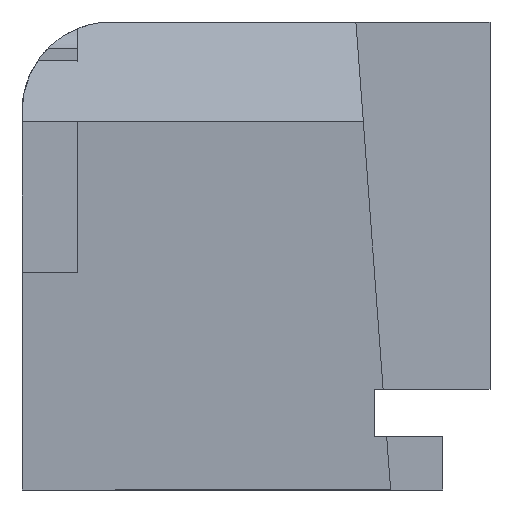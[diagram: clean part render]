
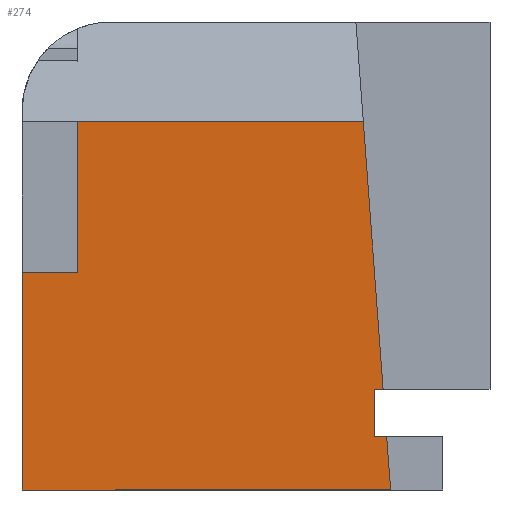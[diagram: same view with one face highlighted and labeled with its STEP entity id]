
A CAD part, left-side view. The second image highlights one B-rep face of the part: STEP entity #274.
In plain terms, the highlighted planar face has unit normal (-0.997, 0.077, 0).
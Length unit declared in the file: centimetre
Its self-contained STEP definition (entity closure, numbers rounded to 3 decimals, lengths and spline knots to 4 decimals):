
#10 = VECTOR ( 'NONE', #1066, 100. ) ;
#25 = CARTESIAN_POINT ( 'NONE',  ( 206.9924, 228.3187, 214.9187 ) ) ;
#38 = CARTESIAN_POINT ( 'NONE',  ( 266.8858, 1000., 787.0998 ) ) ;
#45 = EDGE_CURVE ( 'NONE', #109, #548, #122, .T. ) ;
#77 = LINE ( 'NONE', #866, #918 ) ;
#109 = VERTEX_POINT ( 'NONE', #25 ) ;
#122 = LINE ( 'NONE', #553, #714 ) ;
#141 = VERTEX_POINT ( 'NONE', #218 ) ;
#149 = FACE_OUTER_BOUND ( 'NONE', #820, .T. ) ;
#159 = CARTESIAN_POINT ( 'NONE',  ( 257.65, 881.0047, 787.0998 ) ) ;
#184 = LINE ( 'NONE', #449, #10 ) ;
#192 = EDGE_CURVE ( 'NONE', #310, #109, #778, .T. ) ;
#215 = VECTOR ( 'NONE', #799, 100. ) ;
#218 = CARTESIAN_POINT ( 'NONE',  ( 266.8858, 1000., 464.843 ) ) ;
#231 = VERTEX_POINT ( 'NONE', #332 ) ;
#232 = PLANE ( 'NONE',  #291 ) ;
#237 = VECTOR ( 'NONE', #776, 100. ) ;
#255 = CARTESIAN_POINT ( 'NONE',  ( 266.8858, 1000., 787.0998 ) ) ;
#274 = ADVANCED_FACE ( 'NONE', ( #149 ), #232, .F. ) ;
#279 = VERTEX_POINT ( 'NONE', #1025 ) ;
#291 = AXIS2_PLACEMENT_3D ( 'NONE', #38, #678, #670 ) ;
#310 = VERTEX_POINT ( 'NONE', #860 ) ;
#329 = CARTESIAN_POINT ( 'NONE',  ( 208.4886, 247.5966, 787.0998 ) ) ;
#332 = CARTESIAN_POINT ( 'NONE',  ( 257.65, 881.0047, 464.843 ) ) ;
#334 = ORIENTED_EDGE ( 'NONE', *, *, #500, .T. ) ;
#355 = EDGE_CURVE ( 'NONE', #141, #231, #1105, .T. ) ;
#374 = CARTESIAN_POINT ( 'NONE',  ( 210.2833, 270.7191, 787.0998 ) ) ;
#405 = VECTOR ( 'NONE', #1064, 100. ) ;
#449 = CARTESIAN_POINT ( 'NONE',  ( 210.5942, 274.7258, 841.1687 ) ) ;
#450 = VERTEX_POINT ( 'NONE', #159 ) ;
#453 = LINE ( 'NONE', #635, #405 ) ;
#461 = ORIENTED_EDGE ( 'NONE', *, *, #533, .F. ) ;
#467 = CARTESIAN_POINT ( 'NONE',  ( 266.8858, 1000., 0. ) ) ;
#482 = ORIENTED_EDGE ( 'NONE', *, *, #45, .T. ) ;
#495 = DIRECTION ( 'NONE',  ( 0.006, 0.074, 0.997 ) ) ;
#499 = ORIENTED_EDGE ( 'NONE', *, *, #1014, .T. ) ;
#500 = EDGE_CURVE ( 'NONE', #826, #310, #611, .T. ) ;
#524 = VECTOR ( 'NONE', #858, 100. ) ;
#533 = EDGE_CURVE ( 'NONE', #450, #548, #615, .T. ) ;
#536 = LINE ( 'NONE', #1072, #1097 ) ;
#548 = VERTEX_POINT ( 'NONE', #374 ) ;
#553 = CARTESIAN_POINT ( 'NONE',  ( 210.5942, 274.7258, 841.1687 ) ) ;
#569 = CARTESIAN_POINT ( 'NONE',  ( 208.4886, 247.5966, 114.3688 ) ) ;
#583 = EDGE_CURVE ( 'NONE', #279, #870, #184, .T. ) ;
#601 = EDGE_CURVE ( 'NONE', #231, #450, #536, .T. ) ;
#606 = ORIENTED_EDGE ( 'NONE', *, *, #845, .T. ) ;
#611 = LINE ( 'NONE', #329, #237 ) ;
#615 = LINE ( 'NONE', #255, #215 ) ;
#635 = CARTESIAN_POINT ( 'NONE',  ( 266.8858, 1000., 114.3688 ) ) ;
#641 = DIRECTION ( 'NONE',  ( 0., 0., 1. ) ) ;
#663 = CARTESIAN_POINT ( 'NONE',  ( 188.1383, -14.6022, 464.843 ) ) ;
#670 = DIRECTION ( 'NONE',  ( 0.077, 0.997, 0. ) ) ;
#676 = CARTESIAN_POINT ( 'NONE',  ( 266.8858, 1000., 0. ) ) ;
#678 = DIRECTION ( 'NONE',  ( 0.997, -0.077, 0. ) ) ;
#690 = ORIENTED_EDGE ( 'NONE', *, *, #601, .F. ) ;
#693 = DIRECTION ( 'NONE',  ( -0.077, -0.997, 0. ) ) ;
#714 = VECTOR ( 'NONE', #495, 100. ) ;
#752 = LINE ( 'NONE', #676, #524 ) ;
#776 = DIRECTION ( 'NONE',  ( 0., 0., 1. ) ) ;
#778 = LINE ( 'NONE', #970, #1148 ) ;
#799 = DIRECTION ( 'NONE',  ( -0.077, -0.997, 0. ) ) ;
#820 = EDGE_LOOP ( 'NONE', ( #606, #1083, #499, #334, #943, #482, #461, #690, #1110, #867 ) ) ;
#826 = VERTEX_POINT ( 'NONE', #569 ) ;
#845 = EDGE_CURVE ( 'NONE', #1092, #279, #752, .T. ) ;
#847 = VECTOR ( 'NONE', #929, 100. ) ;
#858 = DIRECTION ( 'NONE',  ( -0.077, -0.997, 0. ) ) ;
#860 = CARTESIAN_POINT ( 'NONE',  ( 208.4886, 247.5966, 214.9187 ) ) ;
#866 = CARTESIAN_POINT ( 'NONE',  ( 266.8858, 1000., 787.0998 ) ) ;
#867 = ORIENTED_EDGE ( 'NONE', *, *, #911, .T. ) ;
#870 = VERTEX_POINT ( 'NONE', #951 ) ;
#911 = EDGE_CURVE ( 'NONE', #141, #1092, #77, .T. ) ;
#918 = VECTOR ( 'NONE', #1039, 100. ) ;
#929 = DIRECTION ( 'NONE',  ( -0.077, -0.997, 0. ) ) ;
#943 = ORIENTED_EDGE ( 'NONE', *, *, #192, .T. ) ;
#951 = CARTESIAN_POINT ( 'NONE',  ( 206.4141, 220.8676, 114.3688 ) ) ;
#970 = CARTESIAN_POINT ( 'NONE',  ( 266.8858, 1000., 214.9187 ) ) ;
#1014 = EDGE_CURVE ( 'NONE', #870, #826, #453, .T. ) ;
#1025 = CARTESIAN_POINT ( 'NONE',  ( 205.7563, 212.3925, 0. ) ) ;
#1039 = DIRECTION ( 'NONE',  ( 0., 0., -1. ) ) ;
#1064 = DIRECTION ( 'NONE',  ( 0.077, 0.997, 0. ) ) ;
#1066 = DIRECTION ( 'NONE',  ( 0.006, 0.074, 0.997 ) ) ;
#1072 = CARTESIAN_POINT ( 'NONE',  ( 257.65, 881.0047, 464.843 ) ) ;
#1083 = ORIENTED_EDGE ( 'NONE', *, *, #583, .T. ) ;
#1092 = VERTEX_POINT ( 'NONE', #467 ) ;
#1097 = VECTOR ( 'NONE', #641, 100. ) ;
#1105 = LINE ( 'NONE', #663, #847 ) ;
#1110 = ORIENTED_EDGE ( 'NONE', *, *, #355, .F. ) ;
#1148 = VECTOR ( 'NONE', #693, 100. ) ;
